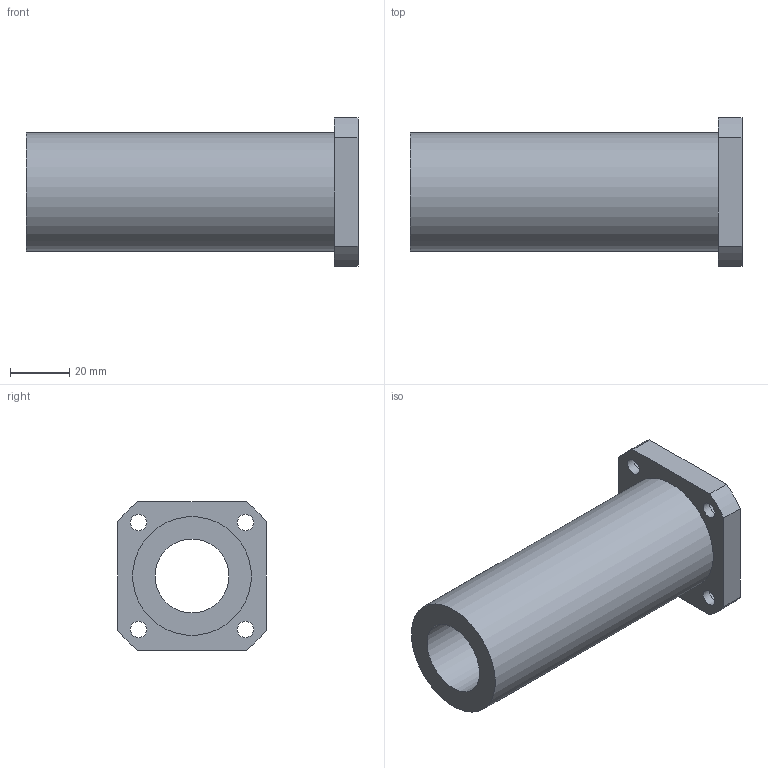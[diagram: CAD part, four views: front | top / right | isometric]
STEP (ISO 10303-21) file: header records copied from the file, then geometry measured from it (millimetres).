
FILE_DESCRIPTION(/* description */ (''),/* implementation_level */ '2;1');
FILE_NAME(/* name */ 'LMEK25LUU',/* time_stamp */ '2019-07-02T15:24:14+02:00',/* author */ ('VĂ©gh MĂˇtĂ©'),/* organization */ ('Bearing Kft'),/* preprocessor_version */ 'ST-DEVELOPER v16.7',/* originating_system */ 'DEX',/* authorisation */ $);
FILE_SCHEMA (('AUTOMOTIVE_DESIGN {1 0 10303 214 3 1 1}'));
Length unit declared in the file: millimetre
Products named in the file (1): LMEK25LUU
Bounding box: 112 x 50 x 50 mm (x, y, z)
Volume: 93494.3 mm3; surface area: 27816.1 mm2
Topology: 1 solids, 1 shells, 350 faces, 888 edges, 592 vertices
Faces by surface type: plane 275, bspline 59, cylinder 16
Full cylindrical faces by diameter (mm): 5.5 x4, 9 x4, 25 x1, 40 x1
Entity records: 13379 total; most frequent: CARTESIAN_POINT 5273, ORIENTED_EDGE 1754, DIRECTION 1375, EDGE_CURVE 877, LINE 727, VECTOR 727, VERTEX_POINT 592, EDGE_LOOP 423
